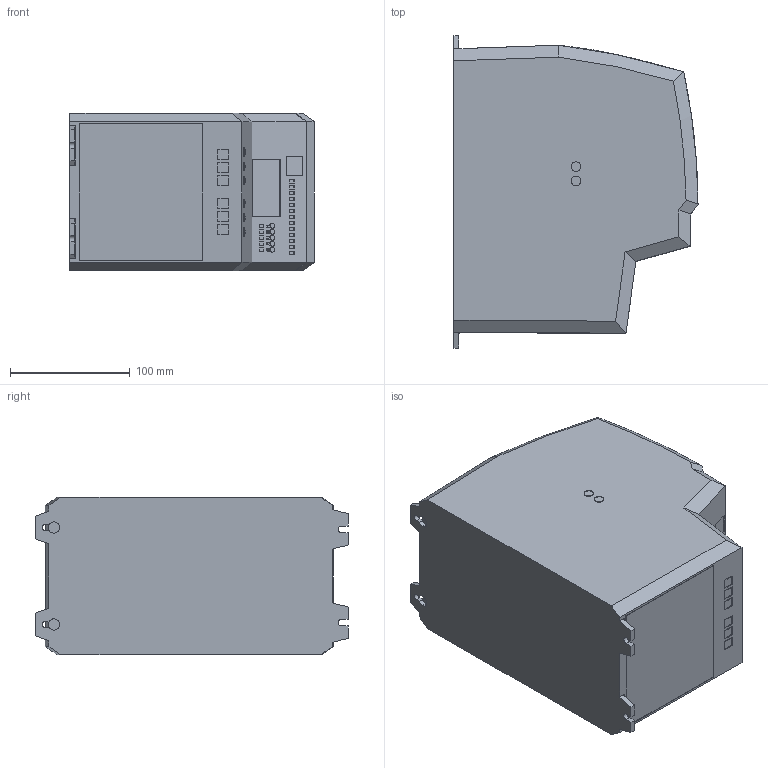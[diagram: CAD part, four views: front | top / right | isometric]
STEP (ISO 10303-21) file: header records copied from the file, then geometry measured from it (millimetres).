
FILE_DESCRIPTION (( 'STEP AP214' ), '1' );
FILE_NAME ('P2ECO S3 IP20.STEP', '2017-08-15T12:01:30', ( '' ), ( '' ), 'SwSTEP 2.0', 'SolidWorks 2017', '' );
FILE_SCHEMA (( 'AUTOMOTIVE_DESIGN' ));
Length unit declared in the file: millimetre
Products named in the file (1): P2ECO S3 IP20
Bounding box: 203.97 x 261 x 131.8 mm (x, y, z)
Volume: 5558065.2 mm3; surface area: 198044.5 mm2
Topology: 1 solids, 1 shells, 1088 faces, 2783 edges, 1853 vertices
Faces by surface type: plane 699, bspline 237, cylinder 150, cone 2
Entity records: 46182 total; most frequent: CARTESIAN_POINT 21805, ORIENTED_EDGE 5564, DIRECTION 3883, EDGE_CURVE 2782, VECTOR 1879, LINE 1879, VERTEX_POINT 1853, EDGE_LOOP 1249
